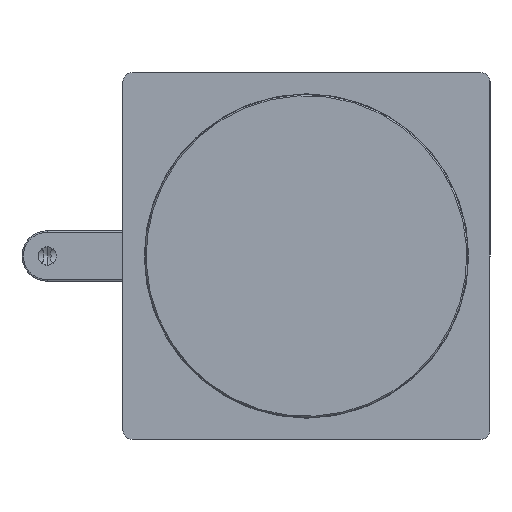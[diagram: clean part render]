
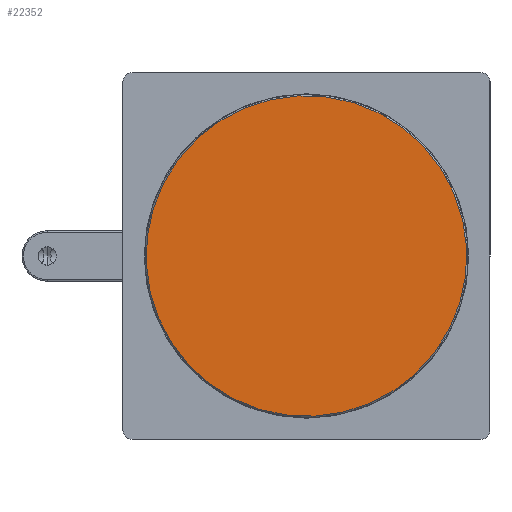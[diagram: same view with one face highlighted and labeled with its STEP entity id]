
A CAD part, front view. The second image highlights one B-rep face of the part: STEP entity #22352.
In plain terms, the highlighted planar face has unit normal (0, -1, 0) as drawn and (0, 0, -1) by its records, which use the part's own axes.
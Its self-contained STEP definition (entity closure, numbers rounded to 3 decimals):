
#1029 = CIRCLE ( 'NONE', #27402, 34.95 ) ;
#1712 = DIRECTION ( 'NONE',  ( 1., 0., 0. ) ) ;
#1887 = CARTESIAN_POINT ( 'NONE',  ( 0., 0., 0. ) ) ;
#3125 = EDGE_LOOP ( 'NONE', ( #28069, #3743 ) ) ;
#3407 = CARTESIAN_POINT ( 'NONE',  ( -34.95, 0., 0. ) ) ;
#3743 = ORIENTED_EDGE ( 'NONE', *, *, #27420, .T. ) ;
#4870 = FACE_OUTER_BOUND ( 'NONE', #3125, .T. ) ;
#6037 = CARTESIAN_POINT ( 'NONE',  ( 34.95, 0., 0. ) ) ;
#14539 = DIRECTION ( 'NONE',  ( 1., 0., 0. ) ) ;
#15186 = PLANE ( 'NONE',  #28141 ) ;
#16391 = EDGE_CURVE ( 'NONE', #22547, #27120, #29123, .T. ) ;
#18035 = DIRECTION ( 'NONE',  ( 1., 0., 0. ) ) ;
#19942 = AXIS2_PLACEMENT_3D ( 'NONE', #30185, #20059, #1712 ) ;
#20059 = DIRECTION ( 'NONE',  ( 0., 0., -1. ) ) ;
#20891 = DIRECTION ( 'NONE',  ( 0., 0., -1. ) ) ;
#22352 = ADVANCED_FACE ( 'NONE', ( #4870 ), #15186, .F. ) ;
#22547 = VERTEX_POINT ( 'NONE', #6037 ) ;
#25422 = DIRECTION ( 'NONE',  ( 0., 0., 1. ) ) ;
#27120 = VERTEX_POINT ( 'NONE', #3407 ) ;
#27402 = AXIS2_PLACEMENT_3D ( 'NONE', #30853, #20891, #18035 ) ;
#27420 = EDGE_CURVE ( 'NONE', #27120, #22547, #1029, .T. ) ;
#28069 = ORIENTED_EDGE ( 'NONE', *, *, #16391, .T. ) ;
#28141 = AXIS2_PLACEMENT_3D ( 'NONE', #1887, #25422, #14539 ) ;
#29123 = CIRCLE ( 'NONE', #19942, 34.95 ) ;
#30185 = CARTESIAN_POINT ( 'NONE',  ( 0., 0., 0. ) ) ;
#30853 = CARTESIAN_POINT ( 'NONE',  ( 0., 0., 0. ) ) ;
